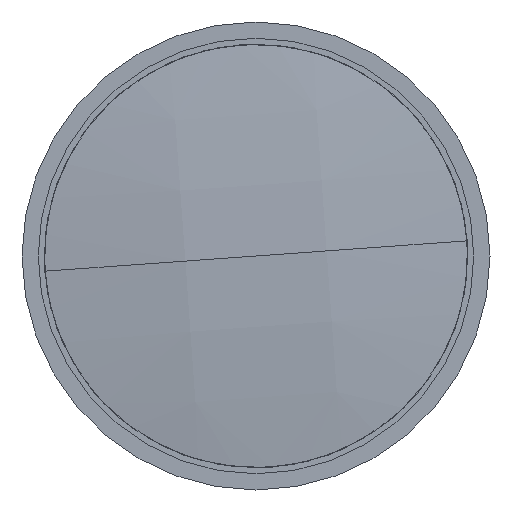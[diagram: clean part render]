
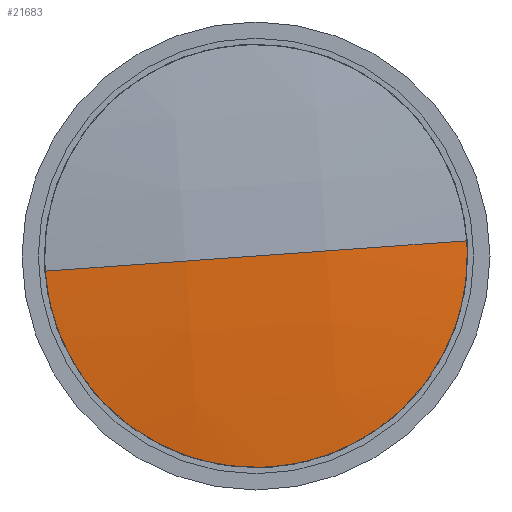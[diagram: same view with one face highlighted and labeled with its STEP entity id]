
A CAD part, left-side view. The second image highlights one B-rep face of the part: STEP entity #21683.
In plain terms, the highlighted free-form (B-spline) face has degree [3, 3] with [4, 4] control points.
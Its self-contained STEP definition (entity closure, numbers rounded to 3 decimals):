
#202 = DIRECTION ( 'NONE',  ( 1., 0., 0. ) ) ;
#1344 = ORIENTED_EDGE ( 'NONE', *, *, #8497, .T. ) ;
#1793 = CARTESIAN_POINT ( 'NONE',  ( 23.797, 11.973, -0.01 ) ) ;
#2039 = CARTESIAN_POINT ( 'NONE',  ( 0., 0., 2.252 ) ) ;
#2402 = FACE_OUTER_BOUND ( 'NONE', #14971, .T. ) ;
#3137 = ORIENTED_EDGE ( 'NONE', *, *, #18781, .T. ) ;
#3161 = VERTEX_POINT ( 'NONE', #12135 ) ;
#3617 = CARTESIAN_POINT ( 'NONE',  ( 11.911, -11.973, -0.773 ) ) ;
#5620 = CARTESIAN_POINT ( 'NONE',  ( 11.911, 11.973, -0.773 ) ) ;
#5705 = CARTESIAN_POINT ( 'NONE',  ( 0., -11.973, -0.773 ) ) ;
#5788 = CARTESIAN_POINT ( 'NONE',  ( 23.534, 35.721, 3.061 ) ) ;
#6057 = CARTESIAN_POINT ( 'NONE',  ( 0., -35.3, 2.252 ) ) ;
#6229 = AXIS2_PLACEMENT_3D ( 'NONE', #19117, #11145, #21307 ) ;
#7015 = CIRCLE ( 'NONE', #23344, 35.3 ) ;
#7370 = VERTEX_POINT ( 'NONE', #10365 ) ;
#7630 = CARTESIAN_POINT ( 'NONE',  ( 35.609, 11.973, 1.512 ) ) ;
#8497 = EDGE_CURVE ( 'NONE', #3161, #7370, #7015, .T. ) ;
#8569 = DIRECTION ( 'NONE',  ( 0., 0., -1. ) ) ;
#8709 = CARTESIAN_POINT ( 'NONE',  ( 0., 0., 2.252 ) ) ;
#9399 = VERTEX_POINT ( 'NONE', #6057 ) ;
#9449 = AXIS2_PLACEMENT_3D ( 'NONE', #8709, #16515, #14534 ) ;
#9640 = CARTESIAN_POINT ( 'NONE',  ( 35.216, 35.721, 4.566 ) ) ;
#9988 = CARTESIAN_POINT ( 'NONE',  ( 11.779, -35.721, 2.306 ) ) ;
#10365 = CARTESIAN_POINT ( 'NONE',  ( 35.3, 0., 2.252 ) ) ;
#10994 = CIRCLE ( 'NONE', #9449, 35.3 ) ;
#11145 = DIRECTION ( 'NONE',  ( 1., 0., 0. ) ) ;
#11166 = EDGE_CURVE ( 'NONE', #7370, #9399, #10994, .T. ) ;
#12135 = CARTESIAN_POINT ( 'NONE',  ( 0., 35.3, 2.252 ) ) ;
#13622 = CARTESIAN_POINT ( 'NONE',  ( 0., 11.973, -0.773 ) ) ;
#13715 = CARTESIAN_POINT ( 'NONE',  ( 23.534, -35.721, 3.061 ) ) ;
#14534 = DIRECTION ( 'NONE',  ( 1., 0., 0. ) ) ;
#14589 =( BOUNDED_SURFACE ( )  B_SPLINE_SURFACE ( 3, 3, ( 
 ( #19857, #9988, #13715, #23676 ),
 ( #5705, #3617, #23847, #17518 ),
 ( #13622, #5620, #1793, #7630 ),
 ( #21532, #15719, #5788, #9640 ) ),
 .UNSPECIFIED., .F., .F., .F. ) 
 B_SPLINE_SURFACE_WITH_KNOTS ( ( 4, 4 ),
 ( 4, 4 ),
 ( 0., 1. ),
 ( 0., 1. ),
 .UNSPECIFIED. ) 
 GEOMETRIC_REPRESENTATION_ITEM ( )  RATIONAL_B_SPLINE_SURFACE ( (
 ( 1., 0.999, 0.999, 1.),
 ( 0.994, 0.993, 0.993, 0.994),
 ( 0.994, 0.993, 0.993, 0.994),
 ( 1., 0.999, 0.999, 1.) ) ) 
 REPRESENTATION_ITEM ( '' )  SURFACE ( )  );
#14632 = CIRCLE ( 'NONE', #6229, 277.8 ) ;
#14971 = EDGE_LOOP ( 'NONE', ( #23291, #3137, #1344 ) ) ;
#15719 = CARTESIAN_POINT ( 'NONE',  ( 11.779, 35.721, 2.306 ) ) ;
#16515 = DIRECTION ( 'NONE',  ( 0., 0., -1. ) ) ;
#17518 = CARTESIAN_POINT ( 'NONE',  ( 35.609, -11.973, 1.512 ) ) ;
#18781 = EDGE_CURVE ( 'NONE', #9399, #3161, #14632, .T. ) ;
#19117 = CARTESIAN_POINT ( 'NONE',  ( 0., 0., 277.8 ) ) ;
#19857 = CARTESIAN_POINT ( 'NONE',  ( 0., -35.721, 2.306 ) ) ;
#21307 = DIRECTION ( 'NONE',  ( 0., -1., 0. ) ) ;
#21532 = CARTESIAN_POINT ( 'NONE',  ( 0., 35.721, 2.306 ) ) ;
#21683 = ADVANCED_FACE ( 'NONE', ( #2402 ), #14589, .T. ) ;
#23291 = ORIENTED_EDGE ( 'NONE', *, *, #11166, .T. ) ;
#23344 = AXIS2_PLACEMENT_3D ( 'NONE', #2039, #8569, #202 ) ;
#23676 = CARTESIAN_POINT ( 'NONE',  ( 35.216, -35.721, 4.566 ) ) ;
#23847 = CARTESIAN_POINT ( 'NONE',  ( 23.797, -11.973, -0.01 ) ) ;
